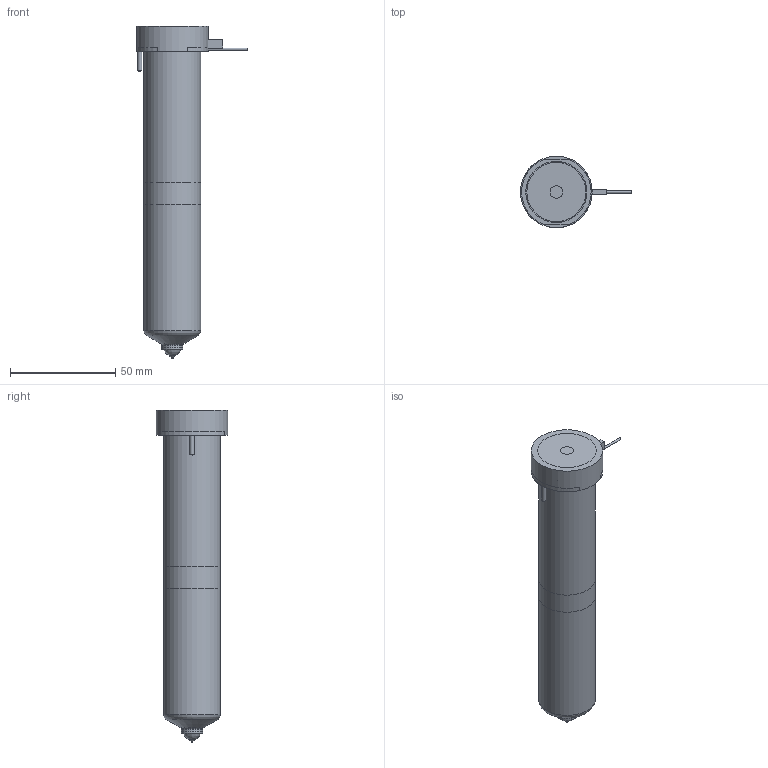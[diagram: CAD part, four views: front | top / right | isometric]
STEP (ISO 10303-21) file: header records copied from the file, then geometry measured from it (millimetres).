
FILE_DESCRIPTION(/* description */ (''),/* implementation_level */ '2;1');
FILE_NAME(/* name */ 'BXOT13145_200C_b',/* time_stamp */ '2007-01-18T08:46:40+13:00',/* author */ (''),/* organization */ (''),/* preprocessor_version */ 'ST-DEVELOPER v9',/* originating_system */ 'UGS - NX 4.0',/* authorisation */ '');
FILE_SCHEMA (('CONFIG_CONTROL_DESIGN'));
Length unit declared in the file: millimetre
Products named in the file (1): BXOT13145_200C_b
Bounding box: 52.65 x 34 x 157.58 mm (x, y, z)
Volume: 157937.1 mm3; surface area: 30711.4 mm2
Topology: 6 solids, 6 shells, 82 faces, 159 edges, 101 vertices
Faces by surface type: plane 35, cylinder 25, cone 11, torus 8, bspline 3
Full cylindrical faces by diameter (mm): 0.9 x1, 1 x3, 2 x2, 6 x1, 6.4 x1, 6.5 x1, 9.61 x1, 10.01 x2, 12.6 x1, 22.2 x1, 27 x2, 34 x1
Entity records: 2032 total; most frequent: CARTESIAN_POINT 438, DIRECTION 336, ORIENTED_EDGE 228, AXIS2_PLACEMENT_3D 150, EDGE_LOOP 130, EDGE_CURVE 114, VERTEX_POINT 93, ADVANCED_FACE 82
